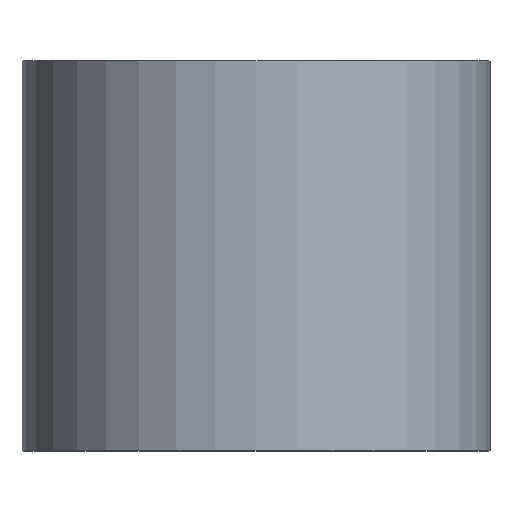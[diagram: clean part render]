
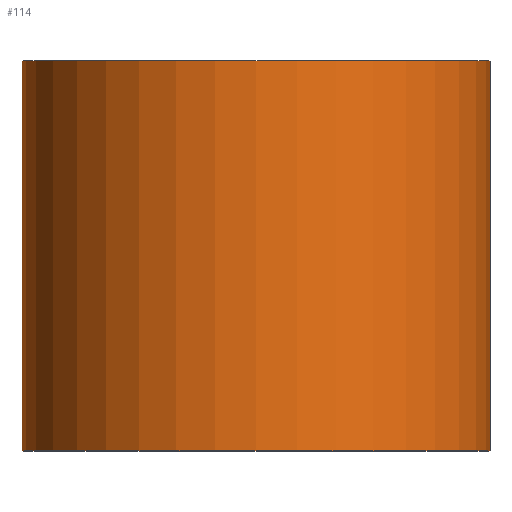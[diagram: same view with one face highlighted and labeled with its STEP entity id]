
A CAD part, top view. The second image highlights one B-rep face of the part: STEP entity #114.
In plain terms, the highlighted cylindrical face has radius 6 mm (diameter 12 mm), a partial arc.
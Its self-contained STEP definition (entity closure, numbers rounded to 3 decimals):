
#2 = DIRECTION ( 'NONE',  ( -1., 0., 0. ) ) ;
#4 = DIRECTION ( 'NONE',  ( -1., 0., 0. ) ) ;
#8 = CYLINDRICAL_SURFACE ( 'NONE', #152, 6. ) ;
#12 = CARTESIAN_POINT ( 'NONE',  ( 6., 0., 0. ) ) ;
#22 = VERTEX_POINT ( 'NONE', #282 ) ;
#25 = ORIENTED_EDGE ( 'NONE', *, *, #197, .F. ) ;
#33 = DIRECTION ( 'NONE',  ( -1., 0., 0. ) ) ;
#40 = ORIENTED_EDGE ( 'NONE', *, *, #104, .F. ) ;
#51 = DIRECTION ( 'NONE',  ( 0., 1., 0. ) ) ;
#66 = AXIS2_PLACEMENT_3D ( 'NONE', #209, #261, #33 ) ;
#69 = LINE ( 'NONE', #145, #279 ) ;
#70 = LINE ( 'NONE', #258, #218 ) ;
#87 = VERTEX_POINT ( 'NONE', #207 ) ;
#95 = EDGE_LOOP ( 'NONE', ( #269, #252, #40, #25 ) ) ;
#99 = EDGE_CURVE ( 'NONE', #259, #87, #69, .T. ) ;
#100 = DIRECTION ( 'NONE',  ( 0., 1., 0. ) ) ;
#104 = EDGE_CURVE ( 'NONE', #202, #87, #116, .T. ) ;
#109 = AXIS2_PLACEMENT_3D ( 'NONE', #210, #100, #2 ) ;
#114 = ADVANCED_FACE ( 'NONE', ( #219 ), #8, .T. ) ;
#116 = CIRCLE ( 'NONE', #66, 6. ) ;
#136 = EDGE_CURVE ( 'NONE', #22, #259, #179, .T. ) ;
#145 = CARTESIAN_POINT ( 'NONE',  ( 6., 0., 0. ) ) ;
#152 = AXIS2_PLACEMENT_3D ( 'NONE', #285, #235, #4 ) ;
#169 = CARTESIAN_POINT ( 'NONE',  ( -6., 10., 0. ) ) ;
#179 = CIRCLE ( 'NONE', #109, 6. ) ;
#185 = DIRECTION ( 'NONE',  ( 0., 1., 0. ) ) ;
#197 = EDGE_CURVE ( 'NONE', #22, #202, #70, .T. ) ;
#202 = VERTEX_POINT ( 'NONE', #169 ) ;
#207 = CARTESIAN_POINT ( 'NONE',  ( 6., 10., 0. ) ) ;
#209 = CARTESIAN_POINT ( 'NONE',  ( 0., 10., 0. ) ) ;
#210 = CARTESIAN_POINT ( 'NONE',  ( 0., 0., 0. ) ) ;
#218 = VECTOR ( 'NONE', #185, 1000. ) ;
#219 = FACE_OUTER_BOUND ( 'NONE', #95, .T. ) ;
#235 = DIRECTION ( 'NONE',  ( 0., 1., 0. ) ) ;
#252 = ORIENTED_EDGE ( 'NONE', *, *, #99, .T. ) ;
#258 = CARTESIAN_POINT ( 'NONE',  ( -6., 0., 0. ) ) ;
#259 = VERTEX_POINT ( 'NONE', #12 ) ;
#261 = DIRECTION ( 'NONE',  ( 0., 1., 0. ) ) ;
#269 = ORIENTED_EDGE ( 'NONE', *, *, #136, .T. ) ;
#279 = VECTOR ( 'NONE', #51, 1000. ) ;
#282 = CARTESIAN_POINT ( 'NONE',  ( -6., 0., 0. ) ) ;
#285 = CARTESIAN_POINT ( 'NONE',  ( 0., 0., 0. ) ) ;
